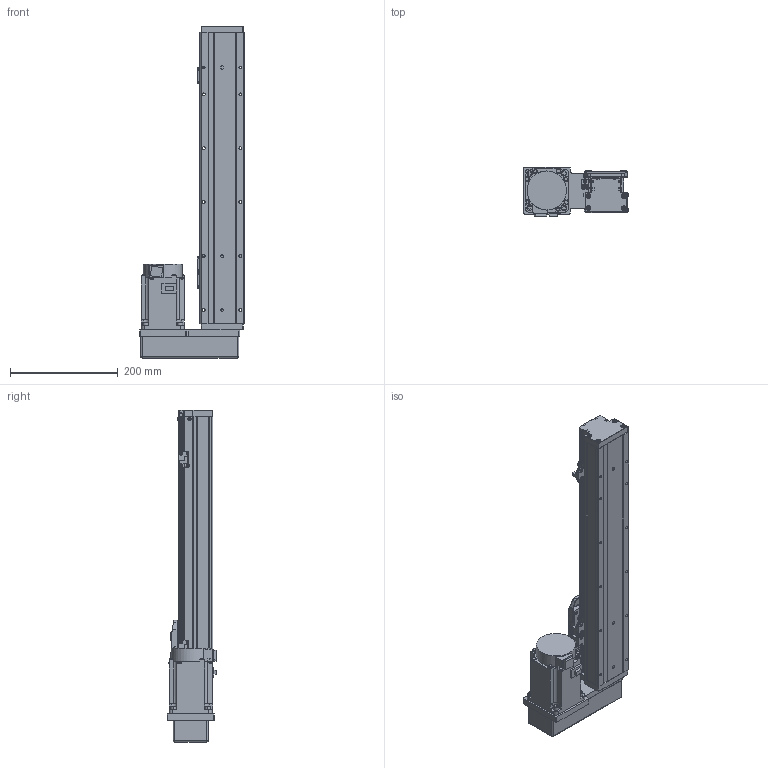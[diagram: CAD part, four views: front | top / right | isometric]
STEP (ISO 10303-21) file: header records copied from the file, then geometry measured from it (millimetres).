
FILE_DESCRIPTION (( 'STEP AP203' ), '1' );
FILE_NAME ('GTH8-350-BL-M75-C4.step', '2023-02-14T02:24:02', ( '微软用户' ), ( '微软中国' ), 'SwSTEP 2.0', 'SolidWorks 2020', '' );
FILE_SCHEMA (( 'CONFIG_CONTROL_DESIGN' ));
Length unit declared in the file: millimetre
Products named in the file (18): GBT 70.3-M3℅6; GBT96.1-2002 3×0.8; CTHA86-035; GTH80-022; BTH-M3X5X6; hg-kn73j_-s100; GTH80-001_350; GBT 70.1-M3℅6; CTHA86-015-3_CTHA86-015-4; GTH8-350-BL-M75-C4; GTH80-003; GBT 70.1-M4×16; GTH80-004; GTH80-028; GTH80-006; GTH50-024; GTH80-013; GTH50-023
Assembly tree (57 placements, depth 2):
  GTH8-350-BL-M75-C4
    GTH80-001_350
    GTH80-003
    GTH80-004
    GTH80-006
    GTH80-013
    GBT 70.3-M3℅6  x4
    GTH80-022
    GBT 70.1-M3℅6  x14
    GBT 70.1-M4×16  x8
    GTH80-028  x2
    GTH50-024  x3
    GTH50-023  x3
    GBT96.1-2002 3×0.8  x6
    BTH-M3X5X6  x8
    CTHA86-015-3_CTHA86-015-4
    CTHA86-035
    hg-kn73j_-s100
Bounding box: 193.5 x 92.3 x 616 mm (x, y, z)
Volume: 3885125.9 mm3; surface area: 422238.7 mm2
Topology: 59 solids, 59 shells, 2187 faces, 5070 edges, 3104 vertices
Faces by surface type: plane 1153, cylinder 619, cone 243, torus 158, sphere 12, bspline 2
Entity records: 39292 total; most frequent: CARTESIAN_POINT 6599, DIRECTION 6473, ORIENTED_EDGE 5950, EDGE_CURVE 2975, AXIS2_PLACEMENT_3D 2278, VECTOR 1917, LINE 1917, VERTEX_POINT 1879
